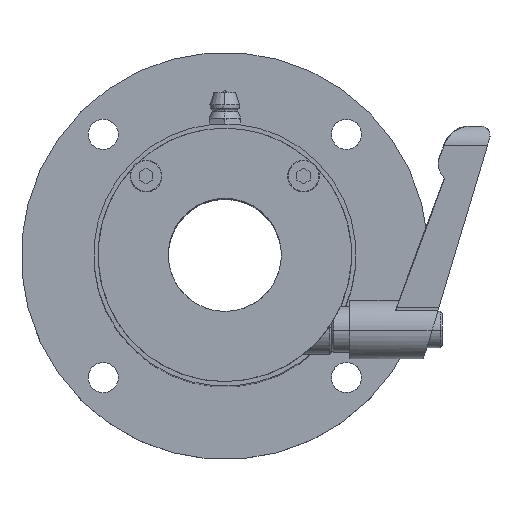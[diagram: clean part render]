
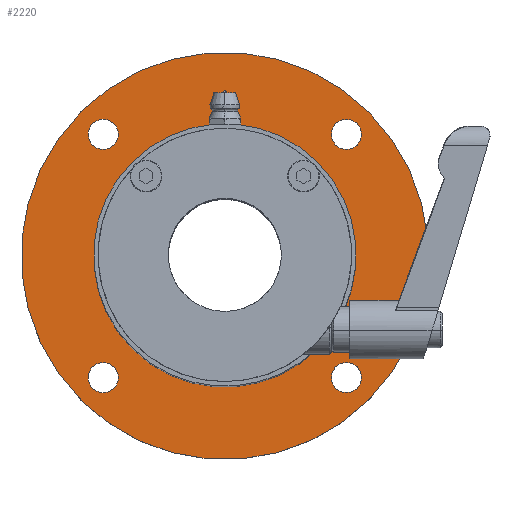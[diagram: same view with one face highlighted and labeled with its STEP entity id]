
A CAD part, top view. The second image highlights one B-rep face of the part: STEP entity #2220.
In plain terms, the highlighted planar face has unit normal (0, 0, 1).
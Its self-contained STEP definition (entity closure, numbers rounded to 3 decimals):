
#167 = AXIS2_PLACEMENT_3D ( 'NONE', #9076, #7392, #9993 ) ;
#413 = VERTEX_POINT ( 'NONE', #751 ) ;
#539 = CARTESIAN_POINT ( 'NONE',  ( 20.254, -30.334, 78. ) ) ;
#606 = CIRCLE ( 'NONE', #2023, 3.324 ) ;
#643 = CARTESIAN_POINT ( 'NONE',  ( 17.196, 20.349, 78. ) ) ;
#666 = VERTEX_POINT ( 'NONE', #4566 ) ;
#742 = CARTESIAN_POINT ( 'NONE',  ( -8.967, -5.814, 78. ) ) ;
#751 = CARTESIAN_POINT ( 'NONE',  ( -38.187, -30.334, 78. ) ) ;
#862 = EDGE_LOOP ( 'NONE', ( #8225, #7974 ) ) ;
#1300 = CIRCLE ( 'NONE', #6920, 3.323 ) ;
#1326 = DIRECTION ( 'NONE',  ( -0.707, -0.707, 0. ) ) ;
#1330 = DIRECTION ( 'NONE',  ( 0.707, -0.707, 0. ) ) ;
#1333 = AXIS2_PLACEMENT_3D ( 'NONE', #4980, #10239, #5034 ) ;
#1521 = DIRECTION ( 'NONE',  ( 0., 0., -1. ) ) ;
#1589 = EDGE_LOOP ( 'NONE', ( #4222, #6150 ) ) ;
#1780 = CARTESIAN_POINT ( 'NONE',  ( -8.967, -5.814, 78. ) ) ;
#1825 = VERTEX_POINT ( 'NONE', #3288 ) ;
#2023 = AXIS2_PLACEMENT_3D ( 'NONE', #9502, #10584, #7990 ) ;
#2220 = ADVANCED_FACE ( 'NONE', ( #8755, #3711, #10636, #2853, #3593, #7067 ), #3194, .T. ) ;
#2280 = CARTESIAN_POINT ( 'NONE',  ( -8.967, -5.814, 78. ) ) ;
#2311 = EDGE_CURVE ( 'NONE', #5755, #6992, #7812, .T. ) ;
#2323 = DIRECTION ( 'NONE',  ( 0., 0., -1. ) ) ;
#2425 = ORIENTED_EDGE ( 'NONE', *, *, #4563, .F. ) ;
#2591 = CIRCLE ( 'NONE', #8764, 45. ) ;
#2754 = AXIS2_PLACEMENT_3D ( 'NONE', #9339, #8334, #9447 ) ;
#2778 = AXIS2_PLACEMENT_3D ( 'NONE', #7416, #2323, #1326 ) ;
#2796 = ORIENTED_EDGE ( 'NONE', *, *, #4953, .T. ) ;
#2853 = FACE_BOUND ( 'NONE', #7652, .T. ) ;
#2897 = VERTEX_POINT ( 'NONE', #9386 ) ;
#2906 = CARTESIAN_POINT ( 'NONE',  ( 15.553, 23.406, 78. ) ) ;
#3156 = CIRCLE ( 'NONE', #5158, 3.323 ) ;
#3194 = PLANE ( 'NONE',  #9787 ) ;
#3203 = DIRECTION ( 'NONE',  ( 0., 0., -1. ) ) ;
#3288 = CARTESIAN_POINT ( 'NONE',  ( -33.487, -35.034, 78. ) ) ;
#3298 = DIRECTION ( 'NONE',  ( -0.707, 0.707, 0. ) ) ;
#3331 = ORIENTED_EDGE ( 'NONE', *, *, #6751, .F. ) ;
#3593 = FACE_BOUND ( 'NONE', #3831, .T. ) ;
#3711 = FACE_BOUND ( 'NONE', #1589, .T. ) ;
#3714 = EDGE_CURVE ( 'NONE', #6992, #5755, #5885, .T. ) ;
#3831 = EDGE_LOOP ( 'NONE', ( #9427, #8165 ) ) ;
#4222 = ORIENTED_EDGE ( 'NONE', *, *, #7342, .T. ) ;
#4448 = EDGE_CURVE ( 'NONE', #6053, #666, #10396, .T. ) ;
#4524 = EDGE_LOOP ( 'NONE', ( #2425, #3331 ) ) ;
#4563 = EDGE_CURVE ( 'NONE', #6981, #9194, #2591, .T. ) ;
#4566 = CARTESIAN_POINT ( 'NONE',  ( 15.553, -35.034, 78. ) ) ;
#4608 = DIRECTION ( 'NONE',  ( 0., 0., -1. ) ) ;
#4616 = CIRCLE ( 'NONE', #5327, 3.323 ) ;
#4768 = EDGE_CURVE ( 'NONE', #2897, #6116, #10761, .T. ) ;
#4852 = EDGE_CURVE ( 'NONE', #10808, #10340, #606, .T. ) ;
#4861 = ORIENTED_EDGE ( 'NONE', *, *, #8401, .T. ) ;
#4953 = EDGE_CURVE ( 'NONE', #413, #1825, #4616, .T. ) ;
#4980 = CARTESIAN_POINT ( 'NONE',  ( -35.837, 21.056, 78. ) ) ;
#5034 = DIRECTION ( 'NONE',  ( 0.707, 0.707, 0. ) ) ;
#5132 = CARTESIAN_POINT ( 'NONE',  ( -38.187, 18.706, 78. ) ) ;
#5158 = AXIS2_PLACEMENT_3D ( 'NONE', #5904, #3203, #3298 ) ;
#5327 = AXIS2_PLACEMENT_3D ( 'NONE', #9110, #10888, #7249 ) ;
#5331 = CIRCLE ( 'NONE', #1333, 3.324 ) ;
#5755 = VERTEX_POINT ( 'NONE', #9074 ) ;
#5830 = DIRECTION ( 'NONE',  ( 0.707, -0.707, 0. ) ) ;
#5885 = CIRCLE ( 'NONE', #9466, 29. ) ;
#5904 = CARTESIAN_POINT ( 'NONE',  ( -35.837, -32.684, 78. ) ) ;
#5942 = CARTESIAN_POINT ( 'NONE',  ( -40.786, -37.634, 78. ) ) ;
#5970 = CIRCLE ( 'NONE', #11184, 3.324 ) ;
#6053 = VERTEX_POINT ( 'NONE', #539 ) ;
#6094 = DIRECTION ( 'NONE',  ( 0.707, 0.707, 0. ) ) ;
#6116 = VERTEX_POINT ( 'NONE', #5132 ) ;
#6142 = DIRECTION ( 'NONE',  ( 0., 0., -1. ) ) ;
#6150 = ORIENTED_EDGE ( 'NONE', *, *, #4448, .T. ) ;
#6253 = DIRECTION ( 'NONE',  ( 0.707, 0.707, 0. ) ) ;
#6474 = CARTESIAN_POINT ( 'NONE',  ( 17.904, -32.684, 78. ) ) ;
#6751 = EDGE_CURVE ( 'NONE', #9194, #6981, #7071, .T. ) ;
#6920 = AXIS2_PLACEMENT_3D ( 'NONE', #6474, #10780, #8231 ) ;
#6981 = VERTEX_POINT ( 'NONE', #8296 ) ;
#6992 = VERTEX_POINT ( 'NONE', #7337 ) ;
#7067 = FACE_BOUND ( 'NONE', #862, .T. ) ;
#7071 = CIRCLE ( 'NONE', #167, 45. ) ;
#7249 = DIRECTION ( 'NONE',  ( -0.707, 0.707, 0. ) ) ;
#7337 = CARTESIAN_POINT ( 'NONE',  ( 11.54, 14.692, 78. ) ) ;
#7342 = EDGE_CURVE ( 'NONE', #666, #6053, #1300, .T. ) ;
#7392 = DIRECTION ( 'NONE',  ( 0., 0., -1. ) ) ;
#7416 = CARTESIAN_POINT ( 'NONE',  ( 17.904, -32.684, 78. ) ) ;
#7517 = CARTESIAN_POINT ( 'NONE',  ( 17.904, 21.056, 78. ) ) ;
#7652 = EDGE_LOOP ( 'NONE', ( #8508, #4861 ) ) ;
#7812 = CIRCLE ( 'NONE', #9794, 29. ) ;
#7974 = ORIENTED_EDGE ( 'NONE', *, *, #2311, .T. ) ;
#7990 = DIRECTION ( 'NONE',  ( 0.707, -0.707, 0. ) ) ;
#8165 = ORIENTED_EDGE ( 'NONE', *, *, #4852, .T. ) ;
#8212 = DIRECTION ( 'NONE',  ( 0., 0., 1. ) ) ;
#8225 = ORIENTED_EDGE ( 'NONE', *, *, #3714, .T. ) ;
#8231 = DIRECTION ( 'NONE',  ( -0.707, -0.707, 0. ) ) ;
#8271 = DIRECTION ( 'NONE',  ( 0., 0., -1. ) ) ;
#8282 = ORIENTED_EDGE ( 'NONE', *, *, #9058, .T. ) ;
#8296 = CARTESIAN_POINT ( 'NONE',  ( 22.853, 26.006, 78. ) ) ;
#8334 = DIRECTION ( 'NONE',  ( 0., 0., -1. ) ) ;
#8401 = EDGE_CURVE ( 'NONE', #6116, #2897, #5331, .T. ) ;
#8508 = ORIENTED_EDGE ( 'NONE', *, *, #4768, .T. ) ;
#8755 = FACE_OUTER_BOUND ( 'NONE', #4524, .T. ) ;
#8764 = AXIS2_PLACEMENT_3D ( 'NONE', #742, #4608, #6253 ) ;
#9058 = EDGE_CURVE ( 'NONE', #1825, #413, #3156, .T. ) ;
#9074 = CARTESIAN_POINT ( 'NONE',  ( -29.473, -26.32, 78. ) ) ;
#9076 = CARTESIAN_POINT ( 'NONE',  ( -8.967, -5.814, 78. ) ) ;
#9110 = CARTESIAN_POINT ( 'NONE',  ( -35.837, -32.684, 78. ) ) ;
#9194 = VERTEX_POINT ( 'NONE', #5942 ) ;
#9339 = CARTESIAN_POINT ( 'NONE',  ( -35.837, 21.056, 78. ) ) ;
#9386 = CARTESIAN_POINT ( 'NONE',  ( -33.487, 23.406, 78. ) ) ;
#9427 = ORIENTED_EDGE ( 'NONE', *, *, #10956, .T. ) ;
#9447 = DIRECTION ( 'NONE',  ( 0.707, 0.707, 0. ) ) ;
#9466 = AXIS2_PLACEMENT_3D ( 'NONE', #1780, #6142, #6094 ) ;
#9502 = CARTESIAN_POINT ( 'NONE',  ( 17.904, 21.056, 78. ) ) ;
#9787 = AXIS2_PLACEMENT_3D ( 'NONE', #643, #8212, #1330 ) ;
#9794 = AXIS2_PLACEMENT_3D ( 'NONE', #2280, #8271, #10821 ) ;
#9993 = DIRECTION ( 'NONE',  ( 0.707, 0.707, 0. ) ) ;
#10239 = DIRECTION ( 'NONE',  ( 0., 0., -1. ) ) ;
#10340 = VERTEX_POINT ( 'NONE', #10850 ) ;
#10396 = CIRCLE ( 'NONE', #2778, 3.323 ) ;
#10584 = DIRECTION ( 'NONE',  ( 0., 0., -1. ) ) ;
#10636 = FACE_BOUND ( 'NONE', #10891, .T. ) ;
#10761 = CIRCLE ( 'NONE', #2754, 3.324 ) ;
#10780 = DIRECTION ( 'NONE',  ( 0., 0., -1. ) ) ;
#10808 = VERTEX_POINT ( 'NONE', #2906 ) ;
#10821 = DIRECTION ( 'NONE',  ( 0.707, 0.707, 0. ) ) ;
#10850 = CARTESIAN_POINT ( 'NONE',  ( 20.254, 18.706, 78. ) ) ;
#10888 = DIRECTION ( 'NONE',  ( 0., 0., -1. ) ) ;
#10891 = EDGE_LOOP ( 'NONE', ( #2796, #8282 ) ) ;
#10956 = EDGE_CURVE ( 'NONE', #10340, #10808, #5970, .T. ) ;
#11184 = AXIS2_PLACEMENT_3D ( 'NONE', #7517, #1521, #5830 ) ;
